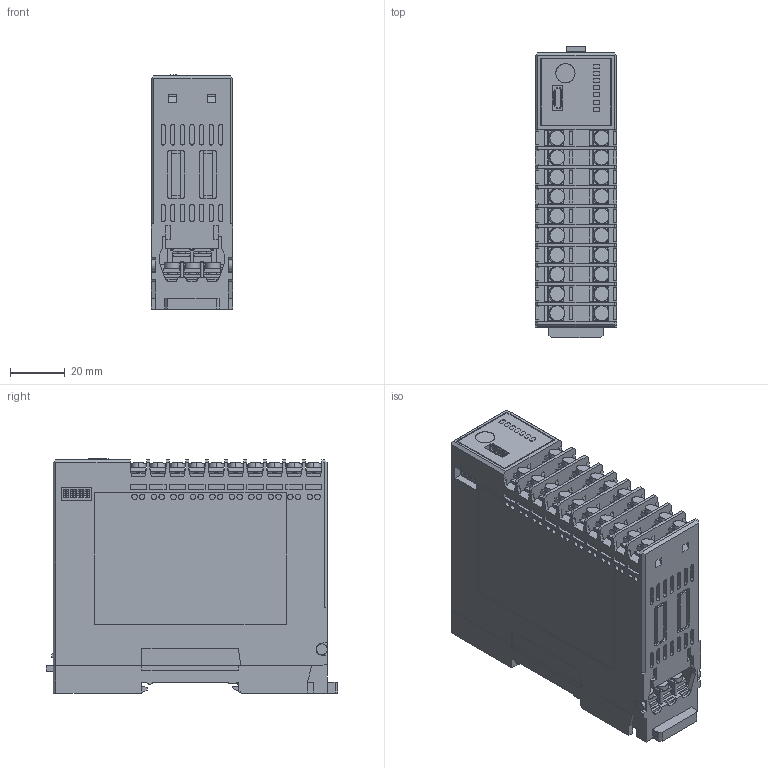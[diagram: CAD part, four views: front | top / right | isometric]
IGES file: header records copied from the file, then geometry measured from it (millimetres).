
Start section: SolidWorks IGES file using analytic representation for surfaces
Bounding box: 29.8 x 106.3 x 85.46 mm (x, y, z)
Surface area: 47187.4 mm2 (no closed solid volume)
Topology: 0 solids, 0 shells, 1933 faces, 17048 edges, 17046 vertices
Faces by surface type: bspline 1526, revolution 407
